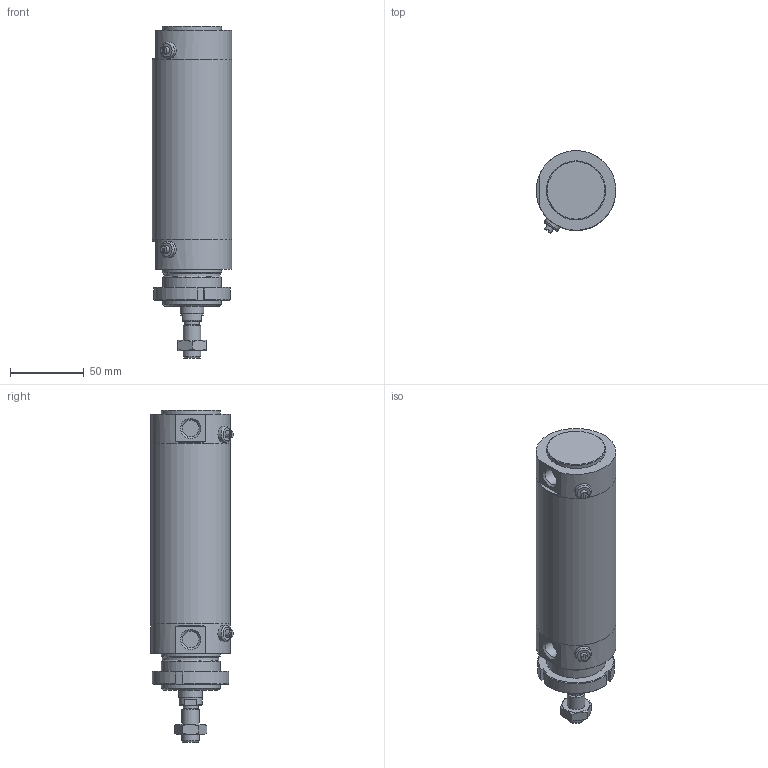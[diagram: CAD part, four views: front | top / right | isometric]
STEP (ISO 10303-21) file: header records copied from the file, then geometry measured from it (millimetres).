
FILE_DESCRIPTION(/* description */ (''),/* implementation_level */ '2;1');
FILE_NAME(/* name */ 'I:\Area Tecnica\Documenti\A-Manieri\_Inventor\12X\12X#D_###_####_#_#\12XBD_050_0080_#_#.stp',/* time_stamp */ '2015-05-04T15:12:40+02:00',/* author */ ('maniean1'),/* organization */ ('Pneumax S.p.A.'),/* preprocessor_version */ 'ST-DEVELOPER v15.2',/* originating_system */ 'Autodesk Inventor 2014',/* authorisation */ '');
FILE_SCHEMA (('AUTOMOTIVE_DESIGN { 1 0 10303 214 3 1 1 }'));
Length unit declared in the file: millimetre
Products named in the file (7): C1250_619-0080; 12X50_606; S12X50_0080; 12X_50_11; 12X50_612; G12X_050_05; 12XBD_050_0080_#_#
Bounding box: 54 x 55.88 x 225 mm (x, y, z)
Volume: 278403.2 mm3; surface area: 86008 mm2
Topology: 6 solids, 6 shells, 99 faces, 217 edges, 140 vertices
Faces by surface type: plane 53, cylinder 25, cone 19, torus 2
Full cylindrical faces by diameter (mm): 5 x2, 10.2 x1, 11 x2, 11.4 x2, 12 x2, 14 x1, 15.6 x1, 16 x1, 38.2 x1, 40 x4, 50 x2, 54 x3
Entity records: 2667 total; most frequent: CARTESIAN_POINT 540, DIRECTION 444, ORIENTED_EDGE 348, AXIS2_PLACEMENT_3D 188, EDGE_CURVE 174, EDGE_LOOP 152, VERTEX_POINT 132, ADVANCED_FACE 99
